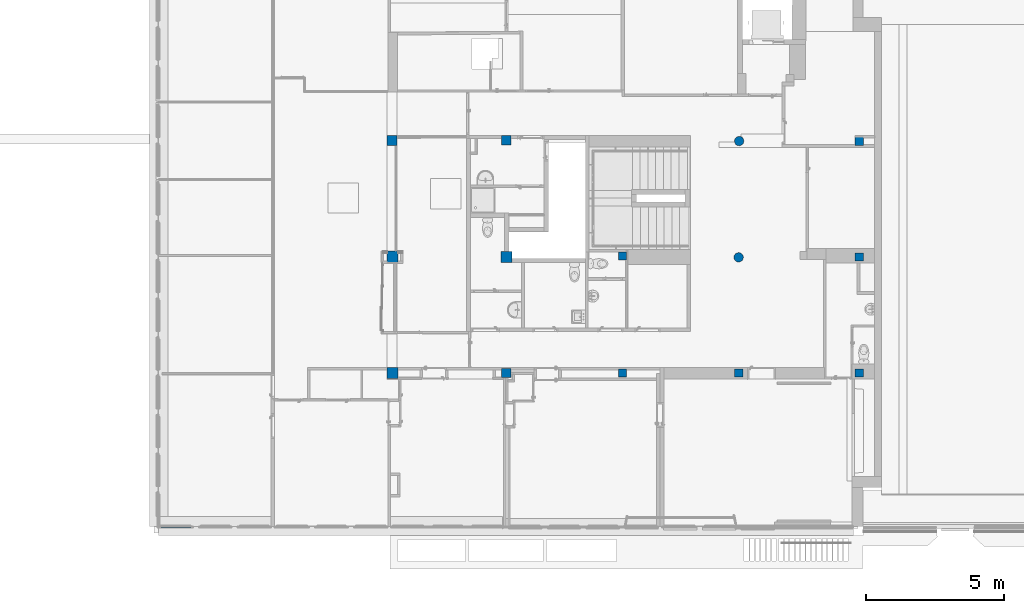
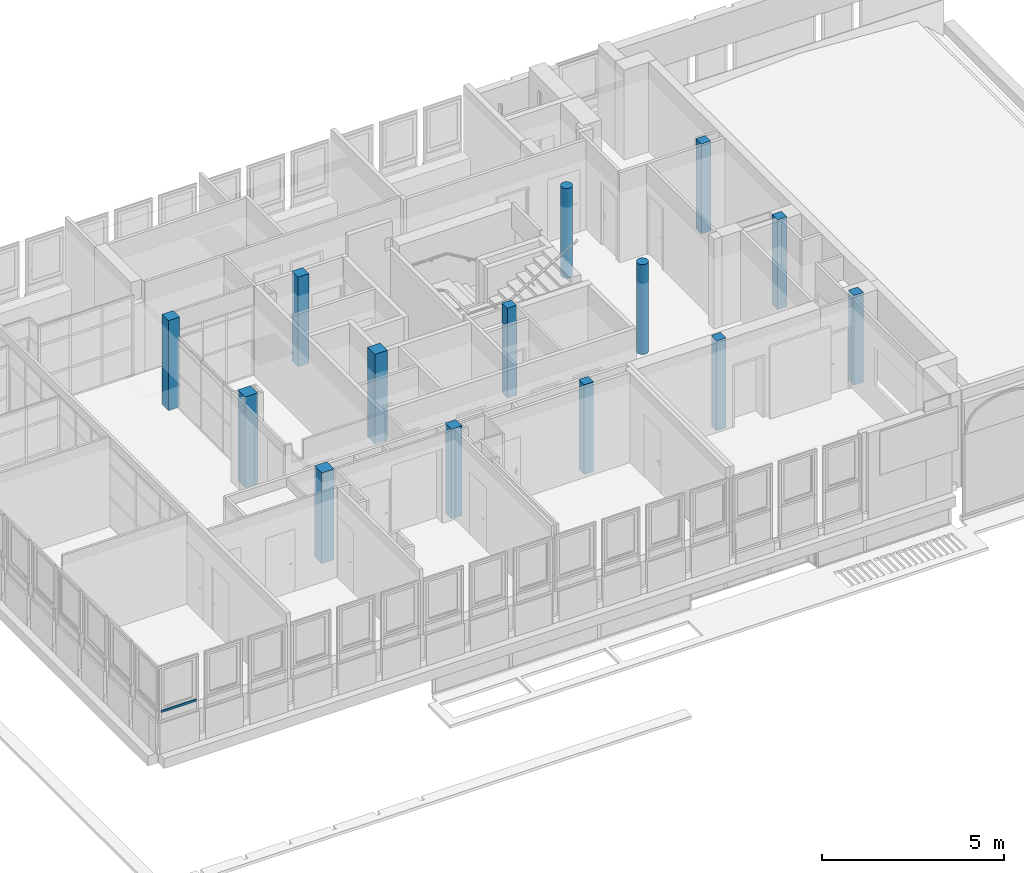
# One storey, part 1 of 97: 14 columns, 1 member, 1 element without a shape of its own.
"""IFC4 building model written with IfcOpenShell, lengths in metres."""

from ifc_helpers import new_model, entity, si_unit, converted_unit, derived_unit, direction, frame, origin, place, context, subcontext, project, spatial, indexed_curve, outline, extrude, polygons, source, transform, mapped, material, type_object, type_shapes, element, aggregate, save


model = new_model("IFC4")

# Units and contexts
model_context = context("Model", 3, precision=1e-05, world=origin(), true_north=direction((6.12303176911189e-17, 1.0)))
body_context = subcontext(model_context, "Body", "Model", "MODEL_VIEW")
ifc_project = project(units=[si_unit("LENGTHUNIT", "METRE"), si_unit("AREAUNIT", "SQUARE_METRE"), si_unit("VOLUMEUNIT", "CUBIC_METRE"), converted_unit("PLANEANGLEUNIT", "DEGREE", entity("IfcRatioMeasure", 0.0174532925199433), si_unit("PLANEANGLEUNIT", "RADIAN"), dimensions=[0, 0, 0, 0, 0, 0, 0]), si_unit("MASSUNIT", "GRAM", prefix="KILO"), derived_unit("MASSDENSITYUNIT", [(si_unit("MASSUNIT", "GRAM", prefix="KILO"), 1), (si_unit("LENGTHUNIT", "METRE"), -3)]), derived_unit("MOMENTOFINERTIAUNIT", [(si_unit("LENGTHUNIT", "METRE"), 4)]), si_unit("TIMEUNIT", "SECOND"), si_unit("FREQUENCYUNIT", "HERTZ"), si_unit("THERMODYNAMICTEMPERATUREUNIT", "DEGREE_CELSIUS"), derived_unit("THERMALTRANSMITTANCEUNIT", [(si_unit("MASSUNIT", "GRAM", prefix="KILO"), 1), (si_unit("THERMODYNAMICTEMPERATUREUNIT", "KELVIN"), -1), (si_unit("TIMEUNIT", "SECOND"), -3)]), derived_unit("VOLUMETRICFLOWRATEUNIT", [(si_unit("LENGTHUNIT", "METRE"), 3), (si_unit("TIMEUNIT", "SECOND"), -1)]), si_unit("ELECTRICCURRENTUNIT", "AMPERE"), si_unit("ELECTRICVOLTAGEUNIT", "VOLT"), si_unit("POWERUNIT", "WATT"), si_unit("FORCEUNIT", "NEWTON", prefix="KILO"), si_unit("ILLUMINANCEUNIT", "LUX"), si_unit("LUMINOUSFLUXUNIT", "LUMEN"), si_unit("LUMINOUSINTENSITYUNIT", "CANDELA"), derived_unit("USERDEFINED", [(si_unit("MASSUNIT", "GRAM", prefix="KILO"), -1), (si_unit("LENGTHUNIT", "METRE"), -2), (si_unit("TIMEUNIT", "SECOND"), 3), (si_unit("LUMINOUSFLUXUNIT", "LUMEN"), 1)]), derived_unit("LINEARVELOCITYUNIT", [(si_unit("LENGTHUNIT", "METRE"), 1), (si_unit("TIMEUNIT", "SECOND"), -1)]), si_unit("PRESSUREUNIT", "PASCAL"), derived_unit("USERDEFINED", [(si_unit("LENGTHUNIT", "METRE"), -2), (si_unit("MASSUNIT", "GRAM", prefix="KILO"), 1), (si_unit("TIMEUNIT", "SECOND"), -2)]), derived_unit("LINEARFORCEUNIT", [(si_unit("MASSUNIT", "GRAM", prefix="KILO"), 1), (si_unit("LENGTHUNIT", "METRE"), 1), (si_unit("TIMEUNIT", "SECOND"), -2), (si_unit("LENGTHUNIT", "METRE"), -1)]), derived_unit("PLANARFORCEUNIT", [(si_unit("MASSUNIT", "GRAM", prefix="KILO"), 1), (si_unit("LENGTHUNIT", "METRE"), 1), (si_unit("TIMEUNIT", "SECOND"), -2), (si_unit("LENGTHUNIT", "METRE"), -2)])], contexts=[model_context])

# Site, building, storey
site_placement = place(None, origin())
site = spatial("IfcSite", under=ifc_project, at=site_placement, Name="Default", CompositionType="ELEMENT")
building_placement = place(site_placement, origin())
building = spatial("IfcBuilding", under=site, at=building_placement, Name="HOTEL CONSULAIRE BOULOGNE SUR MER", CompositionType="ELEMENT")
storey_placement = place(building_placement, frame((0.0, 0.0, 3.62152697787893)))
storey = spatial("IfcBuildingStorey", under=building, at=storey_placement, Name="Niveau 1", CompositionType="ELEMENT", Elevation=3.62152697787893)

# Columns
ifc_material_1 = material(Name="Maçonnerie - Béton coulé sur place", Category="Béton")
column_type_1 = type_object("IfcColumnType", Name="Poteau béton - Arrondi:340", PredefinedType="COLUMN", material=ifc_material_1)
shared_shape_1 = source(origin(), body_context, "Body", "SweptSolid", [
    extrude(outline(indexed_curve([(0.169999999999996, 0.0), (0.161679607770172, 0.0525328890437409), (0.137532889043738, 0.0999234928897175), (0.0999234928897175, 0.137532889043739), (0.0525328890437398, 0.161679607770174), (0.0, 0.169999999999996), (-0.0525328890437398, 0.161679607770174), (-0.0999234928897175, 0.137532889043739), (-0.137532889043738, 0.0999234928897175), (-0.161679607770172, 0.0525328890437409), (-0.169999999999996, 0.0), (-0.161679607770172, -0.0525328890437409), (-0.137532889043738, -0.0999234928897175), (-0.0999234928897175, -0.137532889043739), (-0.0525328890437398, -0.161679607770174), (0.0, -0.169999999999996), (0.0525328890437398, -0.161679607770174), (0.0999234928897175, -0.137532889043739), (0.137532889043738, -0.0999234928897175), (0.161679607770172, -0.0525328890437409), (0.169999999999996, 0.0)], self_intersect=False)), frame((7.16417677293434, -19.8389551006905, 3.62152697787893)), (0.0, 0.0, 1.0), 3.01021454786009),
])
type_shapes(column_type_1, [shared_shape_1])
column_1_placement = place(storey_placement, frame((0.0, 0.0, -3.62152697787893)))
element("IfcColumn", 1, at=column_1_placement, inside=storey, type_object=column_type_1, material=ifc_material_1, Name="Poteau béton - Arrondi:340", ObjectType="Poteau béton - Arrondi:340", PredefinedType="COLUMN", context=body_context, shape_type="MappedRepresentation", body=[
    mapped(shared_shape_1, transform((0.0, 0.0, 0.0), scale=1.0)),
])
column_type_2 = type_object("IfcColumnType", Name="Poteau béton - Rectangulaire:300x300", PredefinedType="COLUMN", material=ifc_material_1)
shared_shape_2 = source(origin(), body_context, "Body", "SweptSolid", [
    extrude(outline(indexed_curve([(-0.150000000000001, -0.149999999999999), (0.150000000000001, -0.149999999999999), (0.150000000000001, 0.150000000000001), (-0.150000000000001, 0.150000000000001), (-0.150000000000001, -0.149999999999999)], self_intersect=False)), frame((7.17117677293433, -24.015909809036, 3.62152697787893), z_axis=(0.0, 0.0, 1.0), x_axis=(0.0, -1.0, 0.0)), (0.0, 0.0, 1.0), 3.01021454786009),
])
type_shapes(column_type_2, [shared_shape_2])
column_2_placement = place(storey_placement, frame((0.0, 0.0, -3.62152697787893)))
element("IfcColumn", 2, at=column_2_placement, inside=storey, type_object=column_type_2, material=ifc_material_1, Name="Poteau béton - Rectangulaire:300x300", ObjectType="Poteau béton - Rectangulaire:300x300", PredefinedType="COLUMN", context=body_context, shape_type="MappedRepresentation", body=[
    mapped(shared_shape_2, transform((0.0, 0.0, 0.0), scale=1.0)),
])
column_type_3 = type_object("IfcColumnType", Name="Poteau béton - Rectangulaire:300x300", PredefinedType="COLUMN", material=ifc_material_1)
shared_shape_3 = source(origin(), body_context, "Body", "SweptSolid", [
    extrude(outline(indexed_curve([(-0.150000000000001, -0.15), (0.150000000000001, -0.15), (0.150000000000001, 0.15), (-0.150000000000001, 0.15), (-0.150000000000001, -0.15)], self_intersect=False)), frame((2.97117677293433, -24.015909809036, 3.62152697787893), z_axis=(0.0, 0.0, 1.0), x_axis=(0.0, -1.0, 0.0)), (0.0, 0.0, 1.0), 3.01021454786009),
])
type_shapes(column_type_3, [shared_shape_3])
column_3_placement = place(storey_placement, frame((0.0, 0.0, -3.62152697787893)))
element("IfcColumn", 3, at=column_3_placement, inside=storey, type_object=column_type_3, material=ifc_material_1, Name="Poteau béton - Rectangulaire:300x300", ObjectType="Poteau béton - Rectangulaire:300x300", PredefinedType="COLUMN", context=body_context, shape_type="MappedRepresentation", body=[
    mapped(shared_shape_3, transform((0.0, 0.0, 0.0), scale=1.0)),
])
column_type_4 = type_object("IfcColumnType", Name="Poteau béton - Rectangulaire:340x340", PredefinedType="COLUMN", material=ifc_material_1)
shared_shape_4 = source(origin(), body_context, "Body", "SweptSolid", [
    extrude(outline(indexed_curve([(-0.17, -0.17), (0.17, -0.17), (0.17, 0.17), (-0.17, 0.17), (-0.17, -0.17)], self_intersect=False)), frame((-1.22882322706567, -24.015909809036, 3.62152697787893), z_axis=(0.0, 0.0, 1.0), x_axis=(0.0, -1.0, 0.0)), (0.0, 0.0, 1.0), 3.01021454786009),
])
type_shapes(column_type_4, [shared_shape_4])
column_4_placement = place(storey_placement, frame((0.0, 0.0, -3.62152697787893)))
element("IfcColumn", 4, at=column_4_placement, inside=storey, type_object=column_type_4, material=ifc_material_1, Name="Poteau béton - Rectangulaire:340x340", ObjectType="Poteau béton - Rectangulaire:340x340", PredefinedType="COLUMN", context=body_context, shape_type="MappedRepresentation", body=[
    mapped(shared_shape_4, transform((0.0, 0.0, 0.0), scale=1.0)),
])
column_type_5 = type_object("IfcColumnType", Name="Poteau béton - Rectangulaire:300x300", PredefinedType="COLUMN", material=ifc_material_1)
shared_shape_5 = source(origin(), body_context, "Body", "SweptSolid", [
    extrude(outline(indexed_curve([(-0.150000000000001, -0.15), (0.150000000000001, -0.15), (0.150000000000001, 0.15), (-0.150000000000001, 0.15), (-0.150000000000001, -0.15)], self_intersect=False)), frame((2.97117677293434, -19.792909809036, 3.62152697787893), z_axis=(0.0, 0.0, 1.0), x_axis=(0.0, -1.0, 0.0)), (0.0, 0.0, 1.0), 3.01021454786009),
])
type_shapes(column_type_5, [shared_shape_5])
column_5_placement = place(storey_placement, frame((0.0, 0.0, -3.62152697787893)))
element("IfcColumn", 5, at=column_5_placement, inside=storey, type_object=column_type_5, material=ifc_material_1, Name="Poteau béton - Rectangulaire:300x300", ObjectType="Poteau béton - Rectangulaire:300x300", PredefinedType="COLUMN", context=body_context, shape_type="MappedRepresentation", body=[
    mapped(shared_shape_5, transform((0.0, 0.0, 0.0), scale=1.0)),
])
column_type_6 = type_object("IfcColumnType", Name="Poteau béton - Rectangulaire:300x300", PredefinedType="COLUMN", material=ifc_material_1)
shared_shape_6 = source(origin(), body_context, "Body", "SweptSolid", [
    extrude(outline(indexed_curve([(-0.150000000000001, -0.150000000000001), (0.150000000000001, -0.150000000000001), (0.150000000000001, 0.149999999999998), (-0.150000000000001, 0.150000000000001), (-0.150000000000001, -0.150000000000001)], self_intersect=False)), frame((11.5172587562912, -19.8292000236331, 3.62152697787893), z_axis=(0.0, 0.0, 1.0), x_axis=(0.0, -1.0, 0.0)), (0.0, 0.0, 1.0), 3.01021454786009),
])
type_shapes(column_type_6, [shared_shape_6])
column_6_placement = place(storey_placement, frame((0.0, 0.0, -3.62152697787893)))
element("IfcColumn", 6, at=column_6_placement, inside=storey, type_object=column_type_6, material=ifc_material_1, Name="Poteau béton - Rectangulaire:300x300", ObjectType="Poteau béton - Rectangulaire:300x300", PredefinedType="COLUMN", context=body_context, shape_type="MappedRepresentation", body=[
    mapped(shared_shape_6, transform((0.0, 0.0, 0.0), scale=1.0)),
])
column_type_7 = type_object("IfcColumnType", Name="Poteau béton - Rectangulaire:300x300", PredefinedType="COLUMN", material=ifc_material_1)
shared_shape_7 = source(origin(), body_context, "Body", "SweptSolid", [
    extrude(outline(indexed_curve([(-0.150000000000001, -0.150000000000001), (0.150000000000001, -0.150000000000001), (0.150000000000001, 0.149999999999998), (-0.150000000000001, 0.150000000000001), (-0.150000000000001, -0.150000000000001)], self_intersect=False)), frame((11.5209033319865, -24.015909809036, 3.62152697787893), z_axis=(0.0, 0.0, 1.0), x_axis=(0.0, -1.0, 0.0)), (0.0, 0.0, 1.0), 3.01021454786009),
])
type_shapes(column_type_7, [shared_shape_7])
column_7_placement = place(storey_placement, frame((0.0, 0.0, -3.62152697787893)))
element("IfcColumn", 7, at=column_7_placement, inside=storey, type_object=column_type_7, material=ifc_material_1, Name="Poteau béton - Rectangulaire:300x300", ObjectType="Poteau béton - Rectangulaire:300x300", PredefinedType="COLUMN", context=body_context, shape_type="MappedRepresentation", body=[
    mapped(shared_shape_7, transform((0.0, 0.0, 0.0), scale=1.0)),
])
column_type_8 = type_object("IfcColumnType", Name="Poteau béton - Arrondi:340", PredefinedType="COLUMN", material=ifc_material_1)
shared_shape_8 = source(origin(), body_context, "Body", "SweptSolid", [
    extrude(outline(indexed_curve([(0.169999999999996, 0.0), (0.161679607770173, 0.0525328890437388), (0.137532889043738, 0.0999234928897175), (0.0999234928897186, 0.137532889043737), (0.0525328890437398, 0.161679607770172), (0.0, 0.169999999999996), (-0.0525328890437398, 0.161679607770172), (-0.0999234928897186, 0.137532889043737), (-0.137532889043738, 0.0999234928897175), (-0.161679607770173, 0.0525328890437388), (-0.169999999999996, 0.0), (-0.161679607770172, -0.0525328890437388), (-0.137532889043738, -0.0999234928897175), (-0.0999234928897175, -0.137532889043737), (-0.0525328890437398, -0.161679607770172), (0.0, -0.169999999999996), (0.0525328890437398, -0.161679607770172), (0.0999234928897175, -0.137532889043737), (0.137532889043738, -0.0999234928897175), (0.161679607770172, -0.0525328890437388), (0.169999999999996, 0.0)], self_intersect=False)), frame((7.181452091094, -15.640389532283, 3.62152697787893)), (0.0, 0.0, 1.0), 3.01021454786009),
])
type_shapes(column_type_8, [shared_shape_8])
column_8_placement = place(storey_placement, frame((0.0, 0.0, -3.62152697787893)))
element("IfcColumn", 8, at=column_8_placement, inside=storey, type_object=column_type_8, material=ifc_material_1, Name="Poteau béton - Arrondi:340", ObjectType="Poteau béton - Arrondi:340", PredefinedType="COLUMN", context=body_context, shape_type="MappedRepresentation", body=[
    mapped(shared_shape_8, transform((0.0, 0.0, 0.0), scale=1.0)),
])
column_type_9 = type_object("IfcColumnType", Name="Poteau béton - Rectangulaire:300x300", PredefinedType="COLUMN", material=ifc_material_1)
shared_shape_9 = source(origin(), body_context, "Body", "SweptSolid", [
    extrude(outline(indexed_curve([(-0.150000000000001, -0.150000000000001), (0.149999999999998, -0.150000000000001), (0.150000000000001, 0.149999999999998), (-0.149999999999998, 0.150000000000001), (-0.150000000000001, -0.150000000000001)], self_intersect=False)), frame((11.5172587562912, -15.645909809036, 3.62152697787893), z_axis=(0.0, 0.0, 1.0), x_axis=(0.0, -1.0, 0.0)), (0.0, 0.0, 1.0), 3.01321454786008),
])
type_shapes(column_type_9, [shared_shape_9])
column_9_placement = place(storey_placement, frame((0.0, 0.0, -3.62152697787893)))
element("IfcColumn", 9, at=column_9_placement, inside=storey, type_object=column_type_9, material=ifc_material_1, Name="Poteau béton - Rectangulaire:300x300", ObjectType="Poteau béton - Rectangulaire:300x300", PredefinedType="COLUMN", context=body_context, shape_type="MappedRepresentation", body=[
    mapped(shared_shape_9, transform((0.0, 0.0, 0.0), scale=1.0)),
])
column_type_10 = type_object("IfcColumnType", Name="Poteau béton - Rectangulaire:400x400", PredefinedType="COLUMN", material=ifc_material_1)
shared_shape_10 = source(origin(), body_context, "Body", "Tessellation", [
    polygons([(0.4, 0.399999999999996, 5.41433564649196e-16), (0.4, 0.150000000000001, 5.41433564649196e-16), (0.276478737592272, 0.150000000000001, 5.41433564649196e-16), (0.276478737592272, 0.399999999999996, 5.41433564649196e-16), (0.293458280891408, 0.399999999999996, 5.41433564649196e-16), (0.4, 0.4, 3.0452145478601), (0.4, 0.150000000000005, 3.0452145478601), (0.4, 0.0, 3.0452145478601), (0.4, 0.0, 0.0350000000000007), (0.4, 0.150000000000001, 0.0350000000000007), (0.0, 0.0, 3.0452145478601), (0.0, 0.0, 0.0350000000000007), (0.0, 0.399999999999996, 3.0452145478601), (0.0, 0.399999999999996, 0.0350000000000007), (0.276478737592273, 0.399999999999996, 0.0350000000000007), (0.14345828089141, 0.399999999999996, 0.0350000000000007), (0.143458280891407, 0.399999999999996, 3.0452145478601), (0.293458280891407, 0.399999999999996, 3.0452145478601), (0.276478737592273, 0.150000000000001, 0.0350000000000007)], [[[3, 4, 5, 1, 2]], [[9, 12, 14, 16, 15, 19, 10]], [[7, 8, 9, 10, 2, 1, 6]], [[8, 11, 12, 9]], [[10, 19, 3, 2]], [[11, 13, 14, 12]], [[15, 4, 3, 19]], [[15, 16, 14, 13, 17, 18, 6, 1, 5, 4]], [[7, 6, 18, 17, 13, 11, 8]]], closed=True),
])
type_shapes(column_type_10, [shared_shape_10])
column_10_placement = place(storey_placement, frame((-1.42882322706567, -20.0298339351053, -0.0350000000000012)))
element("IfcColumn", 10, at=column_10_placement, inside=storey, type_object=column_type_10, material=ifc_material_1, Name="Poteau béton - Rectangulaire:400x400", ObjectType="Poteau béton - Rectangulaire:400x400", PredefinedType="COLUMN", context=body_context, shape_type="MappedRepresentation", body=[
    mapped(shared_shape_10, transform((0.0, 0.0, 0.0), scale=1.0)),
])
column_type_11 = type_object("IfcColumnType", Name="Poteau béton - Rectangulaire:340x340", PredefinedType="COLUMN", material=ifc_material_1)
shared_shape_11 = source(origin(), body_context, "Body", "SweptSolid", [
    extrude(outline(indexed_curve([(-0.17, -0.17), (0.17, -0.17), (0.17, 0.17), (-0.17, 0.17), (-0.17, -0.17)], self_intersect=False)), frame((-1.23518718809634, -15.6095458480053, 3.62152697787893), z_axis=(0.0, 0.0, 1.0), x_axis=(0.0, -1.0, 0.0)), (0.0, 0.0, 1.0), 3.01021454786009),
])
type_shapes(column_type_11, [shared_shape_11])
column_11_placement = place(storey_placement, frame((0.0, 0.0, -3.62152697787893)))
element("IfcColumn", 11, at=column_11_placement, inside=storey, type_object=column_type_11, material=ifc_material_1, Name="Poteau béton - Rectangulaire:340x340", ObjectType="Poteau béton - Rectangulaire:340x340", PredefinedType="COLUMN", context=body_context, shape_type="MappedRepresentation", body=[
    mapped(shared_shape_11, transform((0.0, 0.0, 0.0), scale=1.0)),
])
column_type_12 = type_object("IfcColumnType", Name="Poteau béton - Rectangulaire:360x360", PredefinedType="COLUMN", material=ifc_material_1)
shared_shape_12 = source(origin(), body_context, "Body", "SweptSolid", [
    extrude(outline(indexed_curve([(-0.18, -0.18), (0.18, -0.18), (0.18, 0.18), (-0.18, 0.18), (-0.18, -0.18)], self_intersect=False)), frame((-5.35252868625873, -15.6228590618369, 3.62152697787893), z_axis=(0.0, 0.0, 1.0), x_axis=(0.0, -1.0, 0.0)), (0.0, 0.0, 1.0), 3.01021454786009),
])
type_shapes(column_type_12, [shared_shape_12])
column_12_placement = place(storey_placement, frame((0.0, 0.0, -3.62152697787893)))
element("IfcColumn", 12, at=column_12_placement, inside=storey, type_object=column_type_12, material=ifc_material_1, Name="Poteau béton - Rectangulaire:360x360", ObjectType="Poteau béton - Rectangulaire:360x360", PredefinedType="COLUMN", context=body_context, shape_type="MappedRepresentation", body=[
    mapped(shared_shape_12, transform((0.0, 0.0, 0.0), scale=1.0)),
])
column_type_13 = type_object("IfcColumnType", Name="Poteau béton - Rectangulaire:400x400", PredefinedType="COLUMN", material=ifc_material_1)
shared_shape_13 = source(origin(), body_context, "Body", "SweptSolid", [
    extrude(outline(indexed_curve([(-0.199999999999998, -0.2), (0.200000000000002, -0.2), (0.200000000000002, 0.2), (-0.199999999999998, 0.2), (-0.199999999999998, -0.2)], self_intersect=False)), frame((-5.33252868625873, -19.8170276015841, 3.58652697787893), z_axis=(0.0, 0.0, 1.0), x_axis=(0.0, -1.0, 0.0)), (0.0, 0.0, 1.0), 3.04521454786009),
])
type_shapes(column_type_13, [shared_shape_13])
column_13_placement = place(storey_placement, frame((0.0, 0.0, -3.62152697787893)))
element("IfcColumn", 13, at=column_13_placement, inside=storey, type_object=column_type_13, material=ifc_material_1, Name="Poteau béton - Rectangulaire:400x400", ObjectType="Poteau béton - Rectangulaire:400x400", PredefinedType="COLUMN", context=body_context, shape_type="MappedRepresentation", body=[
    mapped(shared_shape_13, transform((0.0, 0.0, 0.0), scale=1.0)),
])
column_type_14 = type_object("IfcColumnType", Name="Poteau béton - Rectangulaire:400x400", PredefinedType="COLUMN", material=ifc_material_1)
shared_shape_14 = source(origin(), body_context, "Body", "SweptSolid", [
    extrude(outline(indexed_curve([(-0.199999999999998, -0.2), (0.200000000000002, -0.2), (0.200000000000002, 0.2), (-0.199999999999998, 0.2), (-0.199999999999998, -0.2)], self_intersect=False)), frame((-5.33252868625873, -24.015909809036, 3.58652697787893), z_axis=(0.0, 0.0, 1.0), x_axis=(0.0, -1.0, 0.0)), (0.0, 0.0, 1.0), 3.04521454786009),
])
type_shapes(column_type_14, [shared_shape_14])
column_14_placement = place(storey_placement, frame((0.0, 0.0, -3.62152697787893)))
element("IfcColumn", 14, at=column_14_placement, inside=storey, type_object=column_type_14, material=ifc_material_1, Name="Poteau béton - Rectangulaire:400x400", ObjectType="Poteau béton - Rectangulaire:400x400", PredefinedType="COLUMN", context=body_context, shape_type="MappedRepresentation", body=[
    mapped(shared_shape_14, transform((0.0, 0.0, 0.0), scale=1.0)),
])

# Curtain wall, member
curtain_wall_type = type_object("IfcCurtainWallType", Name="Mur-rideau:Simple panneau", PredefinedType="NOTDEFINED")
curtain_wall_placement = place(storey_placement, frame((0.0, 0.0, -3.62152697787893)))
curtain_wall = element("IfcCurtainWall", 15, at=curtain_wall_placement, inside=storey, type_object=curtain_wall_type, Name="Mur-rideau:Simple panneau", ObjectType="Mur-rideau:Simple panneau", PredefinedType="NOTDEFINED")
ifc_material_2 = material(Name="PVC - Blanc", Category="Plastique")
member_type = type_object("IfcMemberType", Name="Meneau rectangulaire:50 x 35", PredefinedType="MULLION", material=ifc_material_2)
shared_shape_15 = source(origin(), body_context, "Body", "SweptSolid", [
    extrude(outline(indexed_curve([(-0.025, -0.035), (0.025, -0.035), (0.025, 0.035), (-0.025, 0.035), (-0.025, -0.035)], self_intersect=False)), frame((0.0, -0.025, -1.10567988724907), z_axis=(0.0, 0.0, 1.0), x_axis=(0.0, -1.0, 0.0)), (0.0, 0.0, 1.0), 1.10567988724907),
])
type_shapes(member_type, [shared_shape_15])
member_placement = place(storey_placement, frame((-13.7170998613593, -29.5501047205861, 1.13961253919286), z_axis=(-1.0, 0.0, 0.0), x_axis=(0.0, 0.0, 1.0)))
member = element("IfcMember", 16, at=member_placement, type_object=member_type, material=ifc_material_2, Name="Meneau rectangulaire:50 x 35", ObjectType="Meneau rectangulaire:50 x 35", PredefinedType="MULLION", context=body_context, shape_type="MappedRepresentation", body=[
    mapped(shared_shape_15, transform((0.0, 0.0, 0.0), scale=1.0)),
])
aggregate(curtain_wall, [member])

save(model, "model.ifc")
